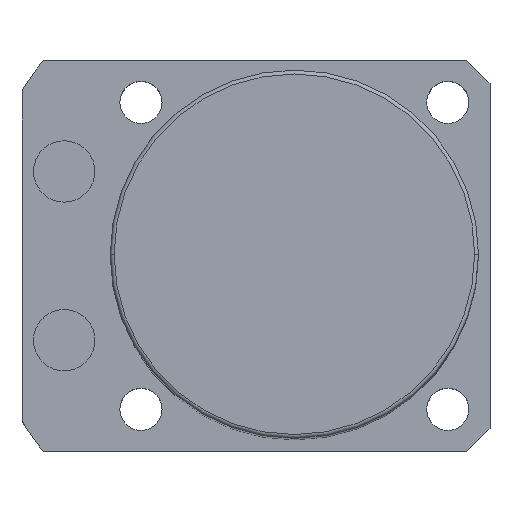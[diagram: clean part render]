
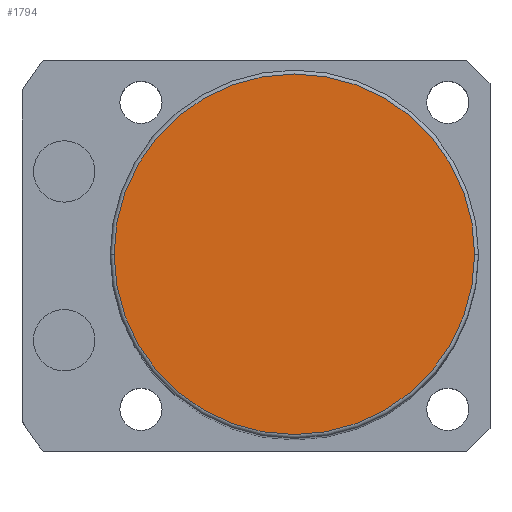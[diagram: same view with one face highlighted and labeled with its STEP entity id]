
A CAD part, top view. The second image highlights one B-rep face of the part: STEP entity #1794.
In plain terms, the highlighted planar face has unit normal (0, 0, 1).
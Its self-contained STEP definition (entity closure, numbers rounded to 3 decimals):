
#242 = AXIS2_PLACEMENT_3D ( 'NONE', #2259, #2433, #1888 ) ;
#588 = CARTESIAN_POINT ( 'NONE',  ( -23.5, 0., 131. ) ) ;
#629 = DIRECTION ( 'NONE',  ( 0., 0., 1. ) ) ;
#721 = DIRECTION ( 'NONE',  ( 0., 0., 1. ) ) ;
#771 = VERTEX_POINT ( 'NONE', #588 ) ;
#836 = DIRECTION ( 'NONE',  ( 1., 0., 0. ) ) ;
#838 = AXIS2_PLACEMENT_3D ( 'NONE', #908, #721, #1673 ) ;
#908 = CARTESIAN_POINT ( 'NONE',  ( 0., 0., 131. ) ) ;
#914 = ORIENTED_EDGE ( 'NONE', *, *, #2008, .T. ) ;
#932 = EDGE_LOOP ( 'NONE', ( #1093, #914 ) ) ;
#1018 = CARTESIAN_POINT ( 'NONE',  ( 0., 0., 131. ) ) ;
#1035 = CIRCLE ( 'NONE', #242, 23.5 ) ;
#1093 = ORIENTED_EDGE ( 'NONE', *, *, #1538, .T. ) ;
#1206 = VERTEX_POINT ( 'NONE', #1754 ) ;
#1387 = AXIS2_PLACEMENT_3D ( 'NONE', #1018, #629, #836 ) ;
#1430 = PLANE ( 'NONE',  #1387 ) ;
#1538 = EDGE_CURVE ( 'NONE', #1206, #771, #2013, .T. ) ;
#1673 = DIRECTION ( 'NONE',  ( 1., 0., 0. ) ) ;
#1754 = CARTESIAN_POINT ( 'NONE',  ( 23.5, 0., 131. ) ) ;
#1794 = ADVANCED_FACE ( 'NONE', ( #2217 ), #1430, .T. ) ;
#1888 = DIRECTION ( 'NONE',  ( 1., 0., 0. ) ) ;
#2008 = EDGE_CURVE ( 'NONE', #771, #1206, #1035, .T. ) ;
#2013 = CIRCLE ( 'NONE', #838, 23.5 ) ;
#2217 = FACE_OUTER_BOUND ( 'NONE', #932, .T. ) ;
#2259 = CARTESIAN_POINT ( 'NONE',  ( 0., 0., 131. ) ) ;
#2433 = DIRECTION ( 'NONE',  ( 0., 0., 1. ) ) ;
